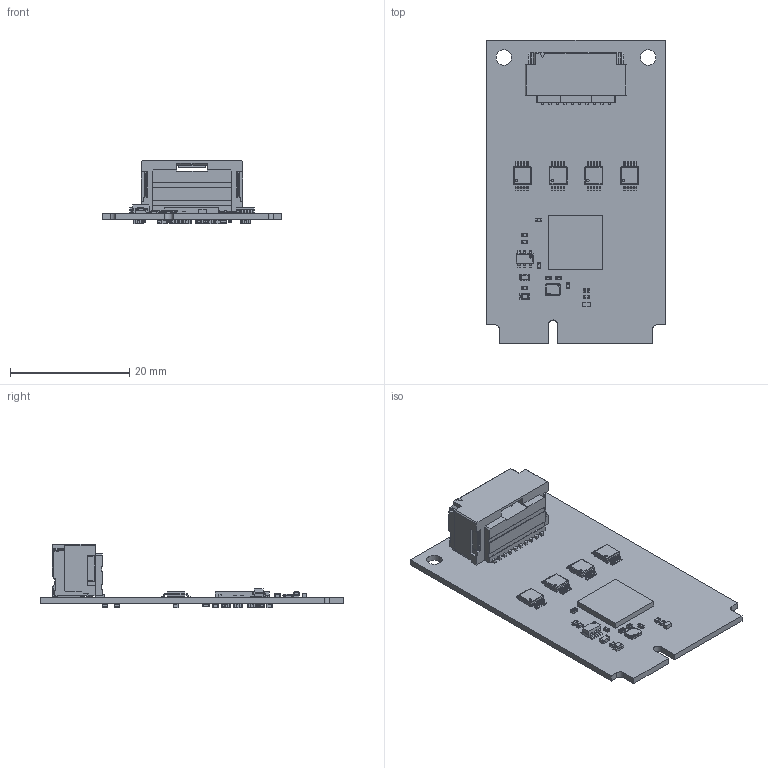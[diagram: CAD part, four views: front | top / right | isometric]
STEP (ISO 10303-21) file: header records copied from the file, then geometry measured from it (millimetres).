
FILE_DESCRIPTION(('Open CASCADE Model'),'2;1');
FILE_NAME('Open CASCADE Shape Model','2022-02-08T13:29:15',('Author'),( 'Open CASCADE'),'Open CASCADE STEP processor 6.8','Open CASCADE 6.8' ,'Unknown');
FILE_SCHEMA(('AUTOMOTIVE_DESIGN { 1 0 10303 214 1 1 1 1 }'));
Products named in the file (1): PCB
Bounding box: 30 x 50.95 x 10.7 mm (x, y, z)
Volume: 2443.6 mm3; surface area: 5044.8 mm2
Topology: 95 solids, 831 shells, 3833 faces, 11898 edges, 9064 vertices
Faces by surface type: plane 2423, cylinder 1114, bspline 204, sphere 58, cone 22, torus 12
Full cylindrical faces by diameter (mm): 0.135 x1, 2.6 x2
Entity records: 139725 total; most frequent: CARTESIAN_POINT 32008, DIRECTION 19773, ORIENTED_EDGE 19154, EDGE_CURVE 11454, VERTEX_POINT 8552, LINE 8105, VECTOR 8105, AXIS2_PLACEMENT_3D 5834
